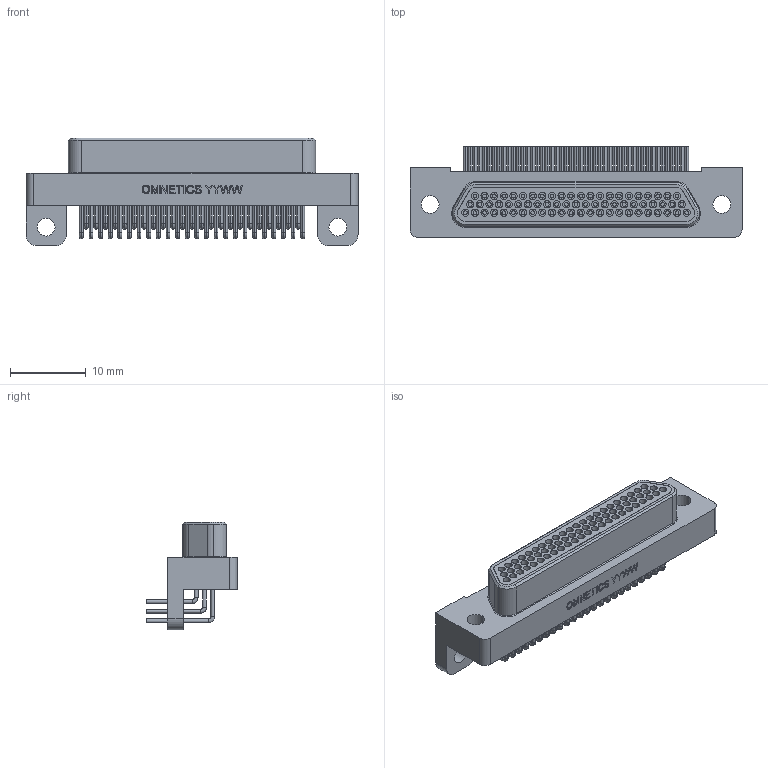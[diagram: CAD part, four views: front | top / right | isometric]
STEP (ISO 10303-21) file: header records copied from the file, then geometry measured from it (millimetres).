
FILE_DESCRIPTION (( 'STEP AP214' ), '1' );
FILE_NAME ('A98055-069 REV A.STEP', '2019-07-16T13:58:42', ( '' ), ( '' ), 'SwSTEP 2.0', 'SolidWorks 2019', '' );
FILE_SCHEMA (( 'AUTOMOTIVE_DESIGN' ));
Length unit declared in the file: inch
Products named in the file (1): A98055-069 REV A
Bounding box: 43.81 x 11.98 x 14.22 mm (x, y, z)
Volume: 2211.9 mm3; surface area: 5705.3 mm2
Topology: 1 solids, 3 shells, 1676 faces, 3658 edges, 2247 vertices
Faces by surface type: cylinder 890, plane 446, torus 143, cone 143, bspline 54
Entity records: 70588 total; most frequent: CARTESIAN_POINT 10666, DIRECTION 8746, ORIENTED_EDGE 7304, EDGE_CURVE 3652, AXIS2_PLACEMENT_3D 3583, VERTEX_POINT 2247, EDGE_LOOP 1985, CIRCLE 1960
